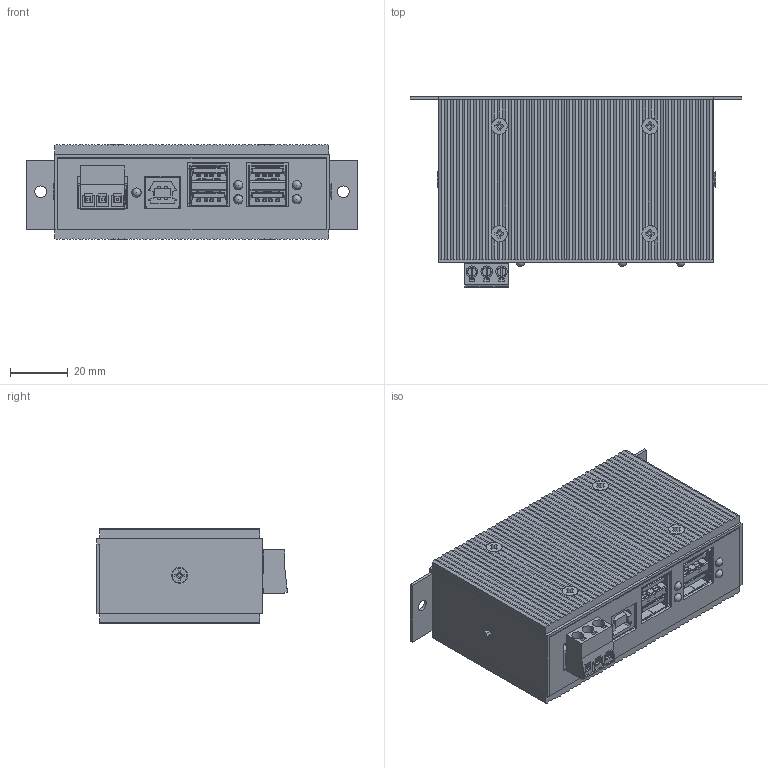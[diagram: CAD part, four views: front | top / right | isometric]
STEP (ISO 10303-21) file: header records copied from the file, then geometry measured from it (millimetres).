
FILE_DESCRIPTION(('FreeCAD Model'),'2;1');
FILE_NAME( 'Y:/Technische Zeichnungen/EX-1163HMS-WT/EX-1163HMS-WT_3D.step', '2017-11-06T13:57:12',('Author'),(''), 'Open CASCADE STEP processor 6.8','FreeCAD','Unknown');
FILE_SCHEMA(('AUTOMOTIVE_DESIGN_CC2 { 1 2 10303 214 -1 1 5 4 }'));
Products named in the file (1): EX-1163HMS-WT_3D
Bounding box: 114.5 x 65.85 x 33.1 mm (x, y, z)
Volume: 69659.3 mm3; surface area: 69243.9 mm2
Topology: 1 solids, 11 shells, 4352 faces, 12874 edges, 8440 vertices
Faces by surface type: plane 2997, cylinder 1048, cone 178, torus 103, sphere 22, bspline 4
Full cylindrical faces by diameter (mm): 1.567 x3, 2 x3, 2.4 x14, 2.459 x1, 3 x7, 3.2 x2, 3.5 x10, 4 x5, 5.3 x4
Entity records: 477957 total; most frequent: CARTESIAN_POINT 204570, DIRECTION 41610, ORIENTED_EDGE 25690, PCURVE 25690, DEFINITIONAL_REPRESENTATION 25690, LINE 25254, VECTOR 25254, EDGE_CURVE 12852
